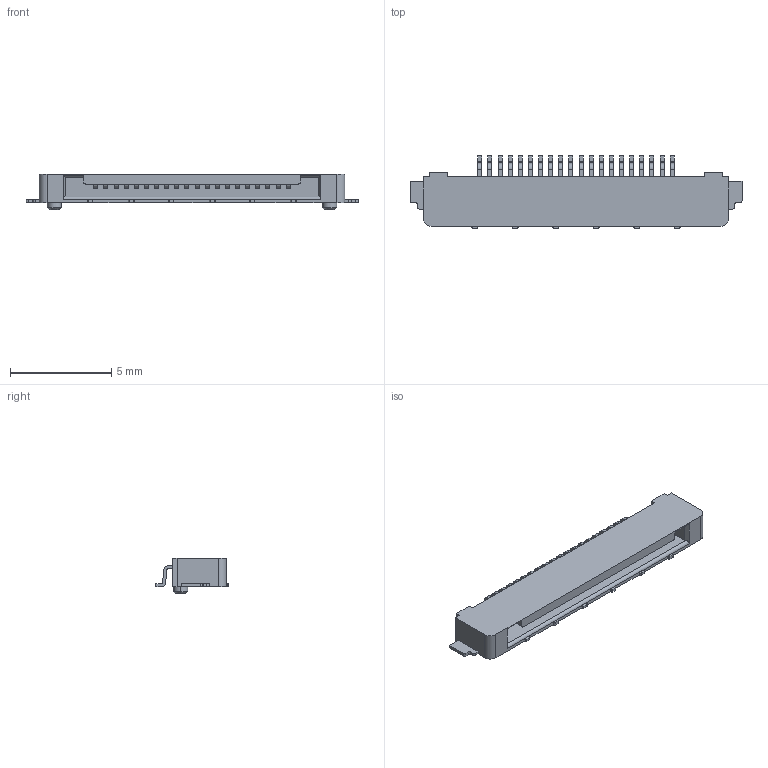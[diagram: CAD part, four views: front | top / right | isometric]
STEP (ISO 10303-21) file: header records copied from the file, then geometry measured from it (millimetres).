
FILE_DESCRIPTION(('Creo Elements/Direct Modeling STEP Export'),'2;1');
FILE_NAME('SSL01-20L3_ST.stp','2017-08-04T14:52:37',(''),(''),'Creo Elements/Direct Modeling STEP processor for AP214 (Solid Model)','Creo Elements/Direct Modeling 19.0F 14-Feb-2017 (C) Parametric Technology GmbH','');
FILE_SCHEMA(('AUTOMOTIVE_DESIGN { 1 0 10303 214 1 1 1 1 }'));
Length unit declared in the file: millimetre
Products named in the file (2): SSL01-20L3
Assembly tree (1 placements, depth 2):
  SSL01-20L3
    SSL01-20L3
Bounding box: 16.4 x 3.58 x 1.75 mm (x, y, z)
Volume: 40.5 mm3; surface area: 206.7 mm2
Topology: 1 solids, 1 shells, 516 faces, 1530 edges, 1019 vertices
Faces by surface type: plane 325, cylinder 187, cone 4
Entity records: 17326 total; most frequent: CARTESIAN_POINT 3065, ORIENTED_EDGE 3060, DIRECTION 2913, EDGE_CURVE 1530, VECTOR 1147, LINE 1147, VERTEX_POINT 1019, AXIS2_PLACEMENT_3D 883
